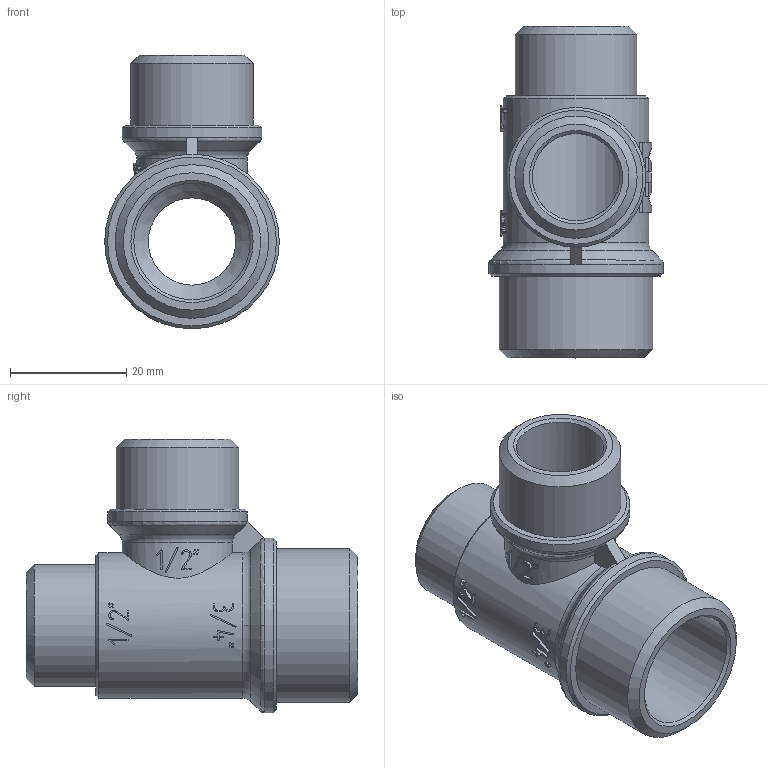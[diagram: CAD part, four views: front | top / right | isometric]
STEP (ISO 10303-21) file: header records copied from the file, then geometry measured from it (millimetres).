
FILE_DESCRIPTION(('STEP AP203'), '1');
FILE_NAME('ÂÐ.752242.003 - VTr.131.RN.050404 - Ôèò. ðåçüá. òðîé', '2024-06-25T07:31:20', ('Boss'), (''), 'C3D Converter', 'C3D Toolkit', '');
FILE_SCHEMA(('CONFIG_CONTROL_DESIGN'));
Length unit declared in the file: millimetre
Products named in the file (1): ВР.752242.003
Bounding box: 30 x 57 x 47 mm (x, y, z)
Volume: 14883.1 mm3; surface area: 10844.4 mm2
Topology: 1 solids, 1 shells, 336 faces, 931 edges, 616 vertices
Faces by surface type: extrusion 185, plane 103, cylinder 30, cone 12, torus 6
Full cylindrical faces by diameter (mm): 15 x2, 20 x1, 20.955 x1, 21 x1, 24 x1, 25 x1, 26.4 x1, 30 x1
Entity records: 14820 total; most frequent: CARTESIAN_POINT 7331, ORIENTED_EDGE 1818, DIRECTION 966, EDGE_CURVE 909, VERTEX_POINT 616, B_SPLINE_CURVE_WITH_KNOTS 574, VECTOR 508, EDGE_LOOP 381
